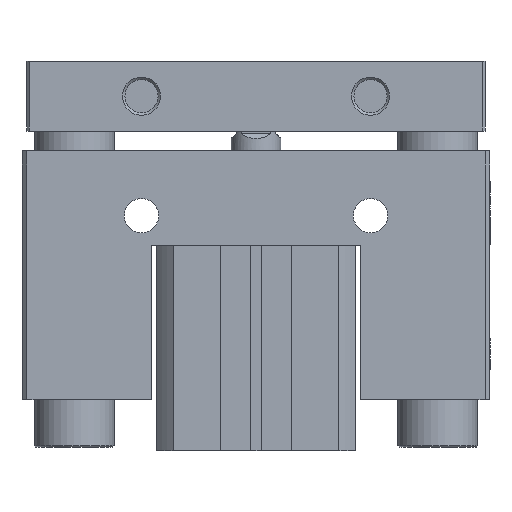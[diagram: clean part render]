
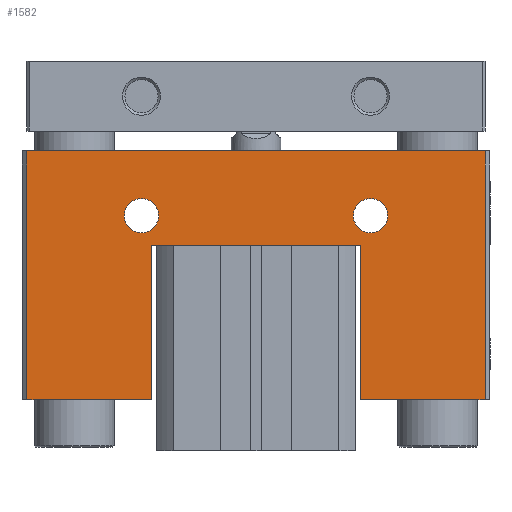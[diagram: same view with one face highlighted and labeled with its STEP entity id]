
A CAD part, front view. The second image highlights one B-rep face of the part: STEP entity #1582.
In plain terms, the highlighted planar face has unit normal (0, -1, 0).
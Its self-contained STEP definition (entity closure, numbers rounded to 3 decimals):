
#1311=CARTESIAN_POINT('',(-48.524,-18.716,60.2));
#1312=VERTEX_POINT('',#1311);
#1319=CARTESIAN_POINT('',(43.476,-18.716,60.2));
#1320=VERTEX_POINT('',#1319);
#1321=CARTESIAN_POINT('',(-48.524,-18.716,60.2));
#1322=DIRECTION('',(1.0,0.0,0.0));
#1323=VECTOR('',#1322,92.);
#1324=LINE('',#1321,#1323);
#1325=EDGE_CURVE('',#1312,#1320,#1324,.T.);
#1488=CARTESIAN_POINT('',(-48.524,-18.716,10.2));
#1489=VERTEX_POINT('',#1488);
#1496=CARTESIAN_POINT('',(-48.524,-18.716,10.2));
#1497=DIRECTION('',(0.0,0.0,1.0));
#1498=VECTOR('',#1497,50.0);
#1499=LINE('',#1496,#1498);
#1500=EDGE_CURVE('',#1489,#1312,#1499,.T.);
#1505=CARTESIAN_POINT('',(-2.524,-18.716,37.237));
#1506=DIRECTION('',(0.0,1.0,0.0));
#1507=DIRECTION('',(0.0,0.0,1.0));
#1508=AXIS2_PLACEMENT_3D('',#1505,#1506,#1507);
#1509=PLANE('',#1508);
#1510=ORIENTED_EDGE('',*,*,#1500,.F.);
#1511=CARTESIAN_POINT('',(-23.524,-18.716,10.2));
#1512=VERTEX_POINT('',#1511);
#1513=CARTESIAN_POINT('',(-23.524,-18.716,10.2));
#1514=DIRECTION('',(-1.0,0.0,0.0));
#1515=VECTOR('',#1514,25.);
#1516=LINE('',#1513,#1515);
#1517=EDGE_CURVE('',#1512,#1489,#1516,.T.);
#1518=ORIENTED_EDGE('',*,*,#1517,.F.);
#1519=CARTESIAN_POINT('',(-23.524,-18.716,41.2));
#1520=VERTEX_POINT('',#1519);
#1521=CARTESIAN_POINT('',(-23.524,-18.716,41.2));
#1522=DIRECTION('',(0.0,0.0,-1.0));
#1523=VECTOR('',#1522,31.);
#1524=LINE('',#1521,#1523);
#1525=EDGE_CURVE('',#1520,#1512,#1524,.T.);
#1526=ORIENTED_EDGE('',*,*,#1525,.F.);
#1527=CARTESIAN_POINT('',(18.476,-18.716,41.2));
#1528=VERTEX_POINT('',#1527);
#1529=CARTESIAN_POINT('',(18.476,-18.716,41.2));
#1530=DIRECTION('',(-1.0,0.0,0.0));
#1531=VECTOR('',#1530,42.);
#1532=LINE('',#1529,#1531);
#1533=EDGE_CURVE('',#1528,#1520,#1532,.T.);
#1534=ORIENTED_EDGE('',*,*,#1533,.F.);
#1535=CARTESIAN_POINT('',(18.476,-18.716,10.2));
#1536=VERTEX_POINT('',#1535);
#1537=CARTESIAN_POINT('',(18.476,-18.716,10.2));
#1538=DIRECTION('',(0.0,0.0,1.0));
#1539=VECTOR('',#1538,31.);
#1540=LINE('',#1537,#1539);
#1541=EDGE_CURVE('',#1536,#1528,#1540,.T.);
#1542=ORIENTED_EDGE('',*,*,#1541,.F.);
#1543=CARTESIAN_POINT('',(43.476,-18.716,10.2));
#1544=VERTEX_POINT('',#1543);
#1545=CARTESIAN_POINT('',(43.476,-18.716,10.2));
#1546=DIRECTION('',(-1.0,0.0,0.0));
#1547=VECTOR('',#1546,25.);
#1548=LINE('',#1545,#1547);
#1549=EDGE_CURVE('',#1544,#1536,#1548,.T.);
#1550=ORIENTED_EDGE('',*,*,#1549,.F.);
#1551=CARTESIAN_POINT('',(43.476,-18.716,60.2));
#1552=DIRECTION('',(0.0,0.0,-1.0));
#1553=VECTOR('',#1552,50.0);
#1554=LINE('',#1551,#1553);
#1555=EDGE_CURVE('',#1320,#1544,#1554,.T.);
#1556=ORIENTED_EDGE('',*,*,#1555,.F.);
#1557=ORIENTED_EDGE('',*,*,#1325,.F.);
#1558=EDGE_LOOP('',(#1510,#1518,#1526,#1534,#1542,#1550,#1556,#1557));
#1559=FACE_OUTER_BOUND('',#1558,.T.);
#1560=CARTESIAN_POINT('',(-28.974,-18.716,47.2));
#1561=VERTEX_POINT('',#1560);
#1562=CARTESIAN_POINT('',(-25.524,-18.716,47.2));
#1563=DIRECTION('',(0.0,1.0,0.0));
#1564=DIRECTION('',(1.0,0.0,0.0));
#1565=AXIS2_PLACEMENT_3D('',#1562,#1563,#1564);
#1566=CIRCLE('',#1565,3.45);
#1567=EDGE_CURVE('',#1561,#1561,#1566,.T.);
#1568=ORIENTED_EDGE('',*,*,#1567,.T.);
#1569=EDGE_LOOP('',(#1568));
#1570=FACE_BOUND('',#1569,.T.);
#1571=CARTESIAN_POINT('',(17.026,-18.716,47.2));
#1572=VERTEX_POINT('',#1571);
#1573=CARTESIAN_POINT('',(20.476,-18.716,47.2));
#1574=DIRECTION('',(0.0,1.0,0.0));
#1575=DIRECTION('',(1.0,0.0,0.0));
#1576=AXIS2_PLACEMENT_3D('',#1573,#1574,#1575);
#1577=CIRCLE('',#1576,3.45);
#1578=EDGE_CURVE('',#1572,#1572,#1577,.T.);
#1579=ORIENTED_EDGE('',*,*,#1578,.T.);
#1580=EDGE_LOOP('',(#1579));
#1581=FACE_BOUND('',#1580,.T.);
#1582=ADVANCED_FACE('',(#1559,#1570,#1581),#1509,.F.);
